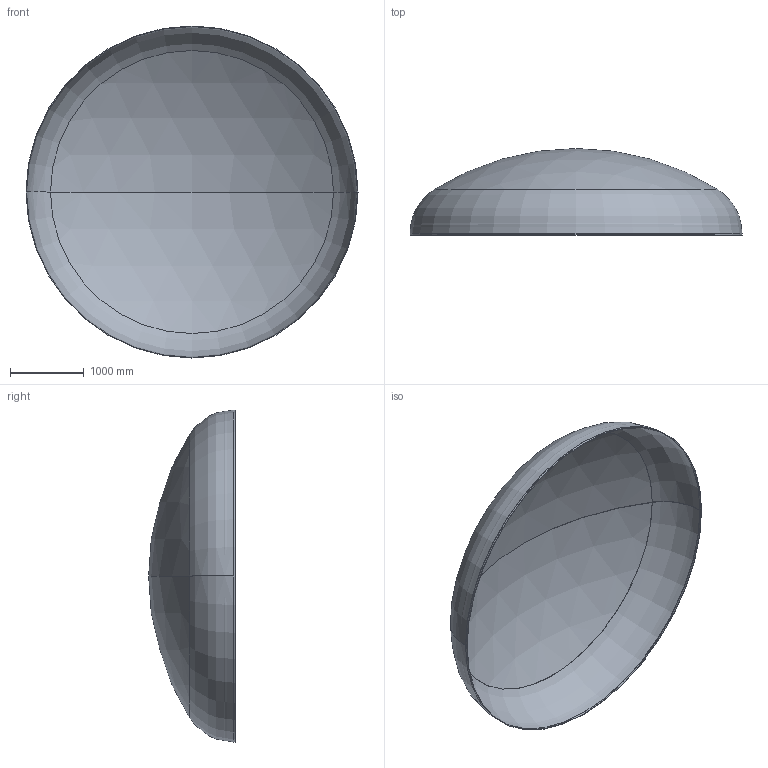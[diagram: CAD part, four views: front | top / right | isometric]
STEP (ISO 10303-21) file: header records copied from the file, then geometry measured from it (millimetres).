
FILE_DESCRIPTION (( 'STEP AP203' ), '1' );
FILE_NAME ('DIN 28013 Korbbogenform_-_Boden DIN 28013 - 4500 x 25 - I - s=7.step', '2016-07-01T22:59:05', ( '' ), ( '' ), 'SwSTEP 2.0', 'SolidWorks 2013', '' );
FILE_SCHEMA (( 'CONFIG_CONTROL_DESIGN' ));
Length unit declared in the file: millimetre
Products named in the file (1): DIN 28013 Korbbogenform_-_Boden DIN 28013 - 4500 x 25 - I - s=7
Bounding box: 4500 x 1173.81 x 4500 mm (x, y, z)
Volume: 156445887.7 mm3; surface area: 44797715.4 mm2
Topology: 1 solids, 1 shells, 13 faces, 24 edges, 14 vertices
Faces by surface type: torus 4, cylinder 4, sphere 4, plane 1
Entity records: 407 total; most frequent: DIRECTION 72, CARTESIAN_POINT 52, ORIENTED_EDGE 48, AXIS2_PLACEMENT_3D 34, EDGE_CURVE 24, CIRCLE 20, EDGE_LOOP 14, VERTEX_POINT 14
